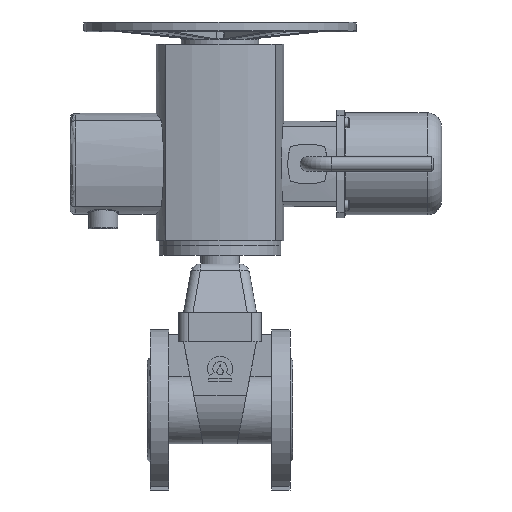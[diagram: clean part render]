
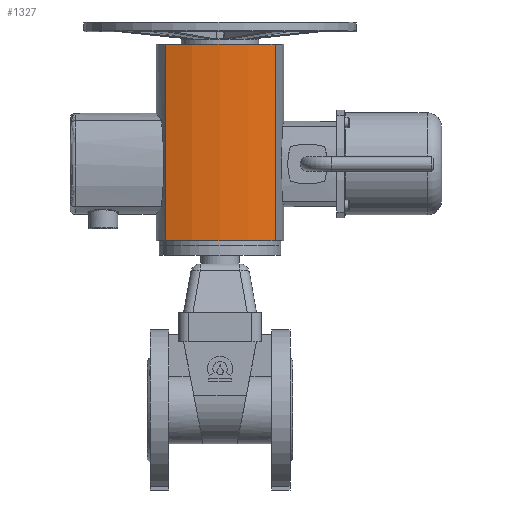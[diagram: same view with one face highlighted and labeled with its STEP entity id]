
A CAD part, left-side view. The second image highlights one B-rep face of the part: STEP entity #1327.
In plain terms, the highlighted cylindrical face has radius 180 mm (diameter 360 mm), a partial arc.
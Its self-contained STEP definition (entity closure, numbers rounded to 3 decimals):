
#1327=ADVANCED_FACE('',(#4916),#4918,.T.);
#4916=FACE_BOUND('',#4917,.T.);
#4917=EDGE_LOOP('',(#8054,#8055,#8056,#8057));
#4918=CYLINDRICAL_SURFACE('',#4919,180.);
#4919=AXIS2_PLACEMENT_3D('',#4920,#4921,#4922);
#4920=CARTESIAN_POINT('',(114.312,0.,174.));
#4921=DIRECTION('',(0.,0.,1.));
#4922=DIRECTION('',(-0.949,0.314,0.));
#8054=ORIENTED_EDGE('',*,*,#9415,.T.);
#8055=ORIENTED_EDGE('',*,*,#9411,.T.);
#8056=ORIENTED_EDGE('',*,*,#9424,.F.);
#8057=ORIENTED_EDGE('',*,*,#9418,.F.);
#9411=EDGE_CURVE('',#10483,#10481,#10484,.T.);
#9415=EDGE_CURVE('',#10489,#10483,#10490,.T.);
#9418=EDGE_CURVE('',#10489,#10494,#10495,.T.);
#9424=EDGE_CURVE('',#10494,#10481,#10505,.T.);
#10481=VERTEX_POINT('',#13696);
#10483=VERTEX_POINT('',#13701);
#10484=LINE('',#13702,#13703);
#10489=VERTEX_POINT('',#13780);
#10490=CIRCLE('',#13781,180.);
#10494=VERTEX_POINT('',#13794);
#10495=LINE('',#13795,#13796);
#10505=CIRCLE('',#13997,180.);
#13696=CARTESIAN_POINT('',(-56.569,-56.569,376.));
#13701=CARTESIAN_POINT('',(-56.569,-56.569,174.));
#13702=CARTESIAN_POINT('',(-56.569,-56.569,174.));
#13703=VECTOR('',#13704,1.);
#13704=DIRECTION('',(0.,0.,1.));
#13780=CARTESIAN_POINT('',(-56.569,56.569,174.));
#13781=AXIS2_PLACEMENT_3D('',#13782,#13783,#13784);
#13782=CARTESIAN_POINT('',(114.312,0.,174.));
#13783=DIRECTION('',(0.,0.,1.));
#13784=DIRECTION('',(-0.949,0.314,0.));
#13794=CARTESIAN_POINT('',(-56.569,56.569,376.));
#13795=CARTESIAN_POINT('',(-56.569,56.569,174.));
#13796=VECTOR('',#13797,1.);
#13797=DIRECTION('',(0.,0.,1.));
#13997=AXIS2_PLACEMENT_3D('',#13998,#13999,#14000);
#13998=CARTESIAN_POINT('',(114.312,0.,376.));
#13999=DIRECTION('',(0.,0.,1.));
#14000=DIRECTION('',(-0.949,0.314,0.));
